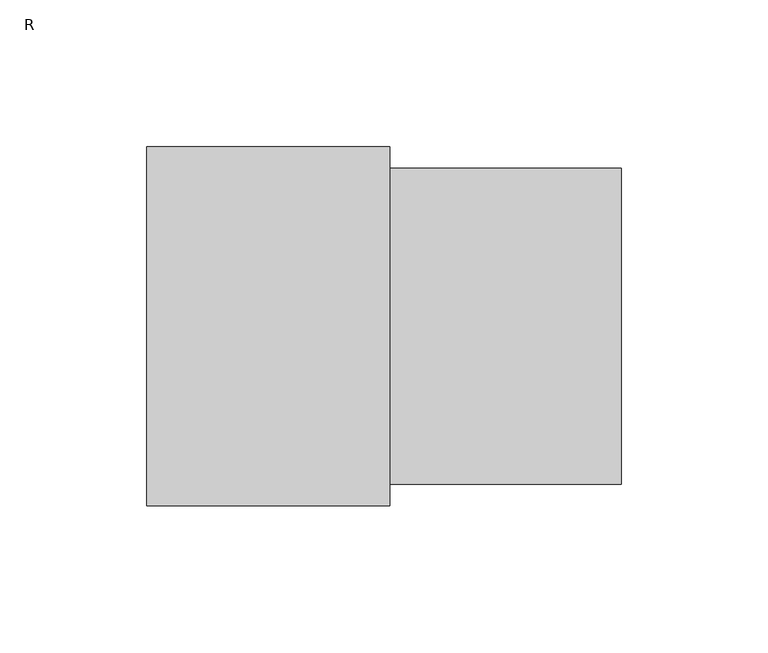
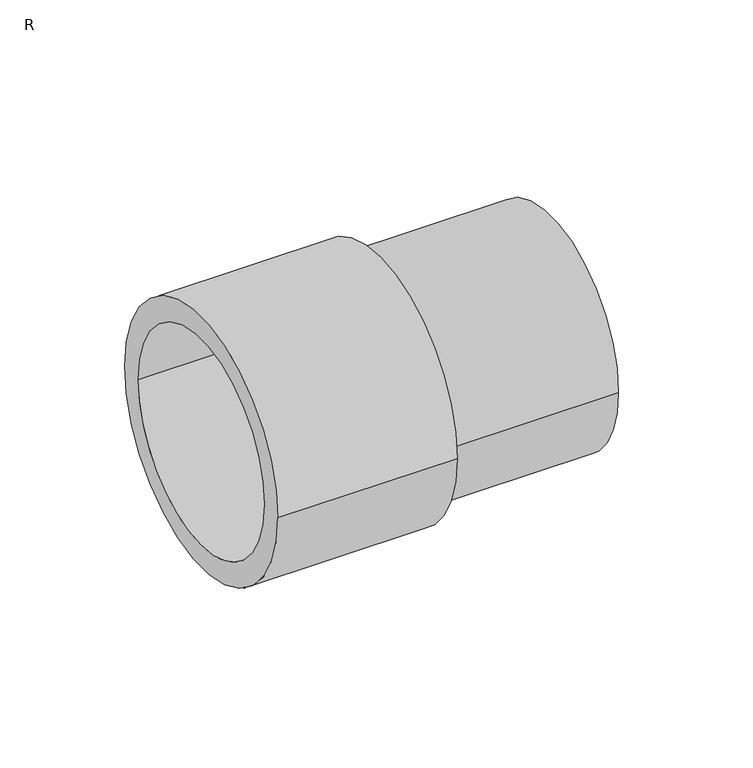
"""IFC4 building model written with IfcOpenShell, lengths in millimetres: pipe fitting geometry, FUSAPEX reducer for T-Piece : R."""

from ifc_helpers import new_model, si_unit, frame, origin, place, context, project, spatial, polyline, circle_curve, source, transform, mapped, element, save
from ifc_brep_helpers import plane_surface, cylinder_surface, revolved_surface, advanced_brep


def r_a358cfd3(model_context):
    return source(origin(), model_context, "Body", "AdvancedBrep", [
        advanced_brep(
        [(-83.0, 50.35, 0.0), (-83.0, -50.35, 0.0), (-6.2, -50.35, 0.0), (-6.2, 50.35, 0.0), (0.0, 61.3, 0.0), (0.0, -61.3, 0.0), (-83.0, -61.3, 0.0), (-83.0, 61.3, 0.0), (79.0, 53.85, 0.0), (79.0, -53.85, 0.0), (0.0, -53.85, 0.0), (0.0, 53.85, 0.0), (-6.2, 44.3, 0.0), (-6.2, -44.3, 0.0), (79.0, -44.3, 0.0), (79.0, 44.3, 0.0)],
        [
            (0, 1, circle_curve(frame((-83.0, 0.0, 0.0), z_axis=(-1.0, 0.0, 0.0), x_axis=(0.0, -1.0, 0.0)), 50.35)),
            (1, 2),
            (2, 3, circle_curve(frame((-6.2, 0.0, 0.0), z_axis=(1.0, 0.0, 0.0), x_axis=(0.0, -1.0, 0.0)), 50.35)),
            (3, 0),
            (4, 5, circle_curve(frame((0.0, 0.0, 0.0), z_axis=(-1.0, 0.0, 0.0), x_axis=(0.0, -1.0, 0.0)), 61.3)),
            (5, 6),
            (6, 7, circle_curve(frame((-83.0, 0.0, 0.0), z_axis=(1.0, 0.0, 0.0), x_axis=(0.0, -1.0, 0.0)), 61.3)),
            (7, 4),
            (8, 9, circle_curve(frame((79.0, 0.0, 0.0), z_axis=(-1.0, 0.0, 0.0), x_axis=(0.0, -1.0, 0.0)), 53.85)),
            (9, 10),
            (10, 11, circle_curve(frame((0.0, 0.0, 0.0), z_axis=(1.0, 0.0, 0.0), x_axis=(0.0, -1.0, 0.0)), 53.85)),
            (11, 8),
            (12, 13, circle_curve(frame((-6.2, 0.0, 0.0), z_axis=(-1.0, 0.0, 0.0), x_axis=(0.0, -1.0, 0.0)), 44.3)),
            (13, 14),
            (14, 15, circle_curve(frame((79.0, 0.0, 0.0), z_axis=(1.0, 0.0, 0.0), x_axis=(0.0, -1.0, 0.0)), 44.3)),
            (15, 12),
            (1, 0, circle_curve(frame((-83.0, 0.0, 0.0), z_axis=(-1.0, 0.0, 0.0), x_axis=(0.0, 1.0, 0.0)), 50.35)),
            (3, 2, circle_curve(frame((-6.2, 0.0, 0.0), z_axis=(1.0, 0.0, 0.0), x_axis=(0.0, 1.0, 0.0)), 50.35)),
            (6, 7, circle_curve(frame((-83.0, 0.0, 0.0), z_axis=(-1.0, 0.0, 0.0), x_axis=(0.0, 1.0, 0.0)), 61.3)),
            (5, 4, circle_curve(frame((0.0, 0.0, 0.0), z_axis=(-1.0, 0.0, 0.0), x_axis=(0.0, 1.0, 0.0)), 61.3)),
            (10, 11, circle_curve(frame((0.0, 0.0, 0.0), z_axis=(-1.0, 0.0, 0.0), x_axis=(0.0, 1.0, 0.0)), 53.85)),
            (9, 8, circle_curve(frame((79.0, 0.0, 0.0), z_axis=(-1.0, 0.0, 0.0), x_axis=(0.0, 1.0, 0.0)), 53.85)),
            (14, 15, circle_curve(frame((79.0, 0.0, 0.0), z_axis=(-1.0, 0.0, 0.0), x_axis=(0.0, 1.0, 0.0)), 44.3)),
            (13, 12, circle_curve(frame((-6.2, 0.0, 0.0), z_axis=(-1.0, 0.0, 0.0), x_axis=(0.0, 1.0, 0.0)), 44.3)),
        ],
        [
            revolved_surface(polyline([(-6.2, -50.35, 0.0), (-83.0, -50.35, 0.0)]), (0.0, 0.0, 0.0), (1.0, 0.0, 0.0)),
            cylinder_surface(frame((0.0, 0.0, 0.0), z_axis=(1.0, 0.0, 0.0), x_axis=(0.0, -1.0, 0.0)), 61.3),
            cylinder_surface(frame((0.0, 0.0, 0.0), z_axis=(1.0, 0.0, 0.0), x_axis=(0.0, -1.0, 0.0)), 53.85),
            revolved_surface(polyline([(79.0, -44.3, 0.0), (-6.2, -44.3, 0.0)]), (0.0, 0.0, 0.0), (1.0, 0.0, 0.0)),
            revolved_surface(polyline([(-6.2, 50.35, 0.0), (-83.0, 50.35, 0.0)]), (0.0, 0.0, 0.0), (1.0, 0.0, 0.0)),
            plane_surface(frame((-83.0, 0.0, 0.0), z_axis=(-1.0, 0.0, 0.0), x_axis=(0.0, 1.0, 0.0))),
            cylinder_surface(frame((0.0, 0.0, 0.0), z_axis=(1.0, 0.0, 0.0), x_axis=(0.0, 1.0, 0.0)), 61.3),
            plane_surface(frame((0.0, 0.0, 0.0), z_axis=(1.0, 0.0, 0.0), x_axis=(0.0, 1.0, 0.0))),
            cylinder_surface(frame((0.0, 0.0, 0.0), z_axis=(1.0, 0.0, 0.0), x_axis=(0.0, 1.0, 0.0)), 53.85),
            plane_surface(frame((79.0, 0.0, 0.0), z_axis=(1.0, 0.0, 0.0), x_axis=(0.0, 1.0, 0.0))),
            revolved_surface(polyline([(79.0, 44.3, 0.0), (-6.2, 44.3, 0.0)]), (0.0, 0.0, 0.0), (1.0, 0.0, 0.0)),
            plane_surface(frame((-6.2, 0.0, 0.0), z_axis=(-1.0, 0.0, 0.0), x_axis=(0.0, 1.0, 0.0))),
        ],
        [
            (0, [[1, 2, 3, 4]]),
            (1, [[5, 6, 7, 8]]),
            (2, [[9, 10, 11, 12]]),
            (3, [[13, 14, 15, 16]]),
            (4, [[17, -4, 18, -2]]),
            (5, [[19, -7], [-17, -1]]),
            (6, [[20, -8, -19, -6]]),
            (7, [[-20, -5], [21, -11]]),
            (8, [[22, -12, -21, -10]]),
            (9, [[-22, -9], [23, -15]]),
            (10, [[24, -16, -23, -14]]),
            (11, [[-18, -3], [-24, -13]]),
        ],
    ),
    ])


if __name__ == "__main__":
    model = new_model("IFC4")
    model_context = context("Model", 3, world=origin())
    ifc_project = project(units=[si_unit("LENGTHUNIT", "METRE", prefix="MILLI")], contexts=[model_context])
    site = spatial("IfcSite", under=ifc_project)
    building = spatial("IfcBuilding", under=site)
    placement = place(None, origin())
    r_shape = r_a358cfd3(model_context)
    element("IfcPipeFitting", 1, ObjectType="FUSAPEX reducer for T-Piece : R", at=placement, inside=building, context=model_context, shape_type="MappedRepresentation", body=[
        mapped(r_shape, transform((0.0, 0.0, 0.0), x_axis=(1.0, 0.0, 0.0), y_axis=(0.0, 1.0, 0.0), z_axis=(0.0, 0.0, 1.0))),
    ])
    save(model, "model.ifc")
